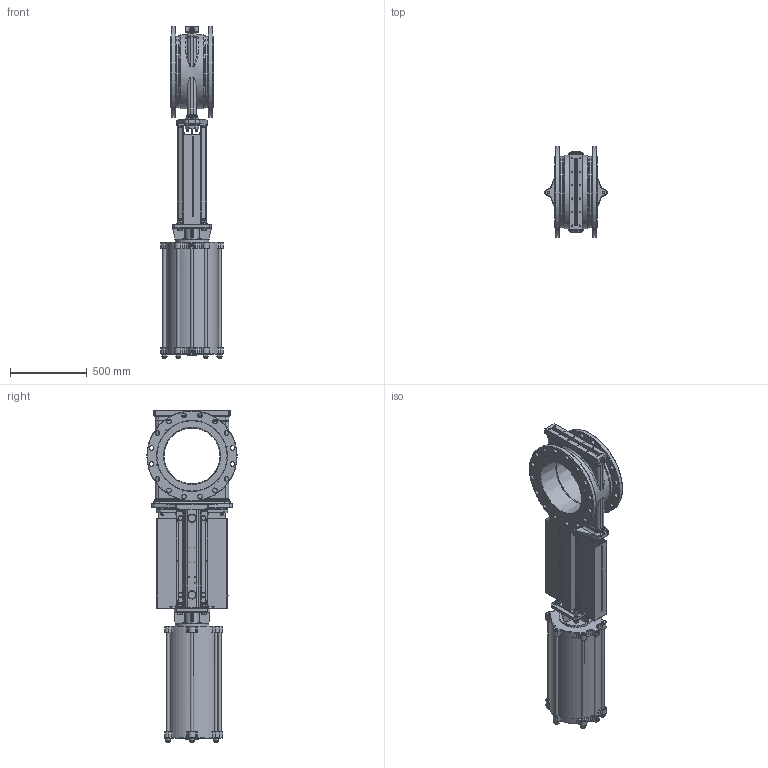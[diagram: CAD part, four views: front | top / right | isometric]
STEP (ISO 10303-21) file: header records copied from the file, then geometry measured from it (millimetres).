
FILE_DESCRIPTION(/* description */ (''),/* implementation_level */ '2;1');
FILE_NAME(/* name */ 'F:\3D-block färdiga för export\SLV-SLF\DN 400\SLF DN 400-ANSI150-FRSC320-500_.stp',/* time_stamp */ '2021-06-28T10:12:47+02:00',/* author */ ('MATZET'),/* organization */ (''),/* preprocessor_version */ 'ST-DEVELOPER v18',/* originating_system */ 'Autodesk Inventor 2020',/* authorisation */ '');
FILE_SCHEMA (('AUTOMOTIVE_DESIGN { 1 0 10303 214 3 1 1 }'));
Length unit declared in the file: millimetre
Products named in the file (1): SLF DN 400-ANSI150-FRSC320-500_Shrinkwrap_1
Bounding box: 406 x 590 x 2168.5 mm (x, y, z)
Volume: 55549711.4 mm3; surface area: 8388439.8 mm2
Topology: 1 solids, 1 shells, 3077 faces, 7777 edges, 4891 vertices
Faces by surface type: plane 1112, cylinder 888, bspline 383, cone 299, torus 287, sphere 108
Full cylindrical faces by diameter (mm): 2.5 x8, 3.5 x4, 4 x24, 4.917 x19, 5 x8, 6 x1, 6.647 x4, 7 x12, 7.5 x4, 8.376 x4, 8.88 x1, 9.5 x2, 10.106 x2, 12 x18, 13 x8, 14 x7, 15 x9, 16 x6, 18 x1, 18.2 x4, 18.5 x2, 18.631 x2, 19 x8, 20 x20, 20.5 x2, 21 x10, 22 x6, 22.49 x4, 23 x8, 24 x16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
Entity records: 130350 total; most frequent: CARTESIAN_POINT 54813, DIRECTION 15591, ORIENTED_EDGE 15368, EDGE_CURVE 7684, AXIS2_PLACEMENT_3D 6426, VERTEX_POINT 4885, CIRCLE 3601, EDGE_LOOP 3567
